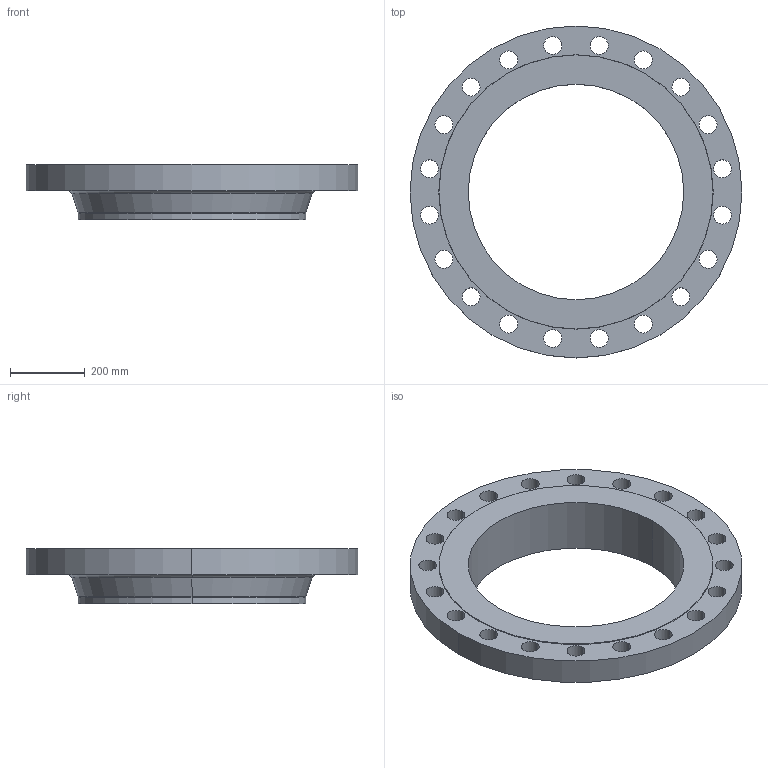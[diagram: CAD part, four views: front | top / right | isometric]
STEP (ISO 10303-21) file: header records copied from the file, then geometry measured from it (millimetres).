
FILE_DESCRIPTION (( 'STEP AP214' ), '1' );
FILE_NAME ('PN40 DN600 Type 11 - Type B Face.STEP', '2018-12-29T04:44:00', ( '' ), ( '' ), 'SwSTEP 2.0', 'SolidWorks 2019', '' );
FILE_SCHEMA (( 'AUTOMOTIVE_DESIGN' ));
Length unit declared in the file: millimetre
Products named in the file (1): PN40 DN600 Type 11 - Type B Face
Bounding box: 890 x 890 x 150 mm (x, y, z)
Volume: 26456944.5 mm3; surface area: 1446303 mm2
Topology: 1 solids, 1 shells, 58 faces, 156 edges, 102 vertices
Faces by surface type: cylinder 46, cone 4, torus 4, plane 4
Entity records: 1996 total; most frequent: DIRECTION 380, CARTESIAN_POINT 317, ORIENTED_EDGE 312, AXIS2_PLACEMENT_3D 165, EDGE_CURVE 156, CIRCLE 106, VERTEX_POINT 102, EDGE_LOOP 102
